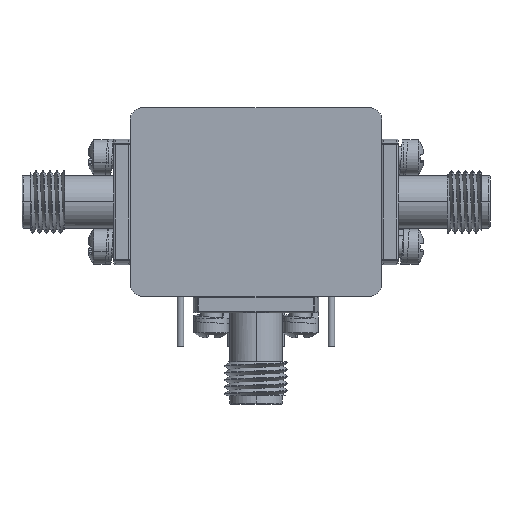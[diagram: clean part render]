
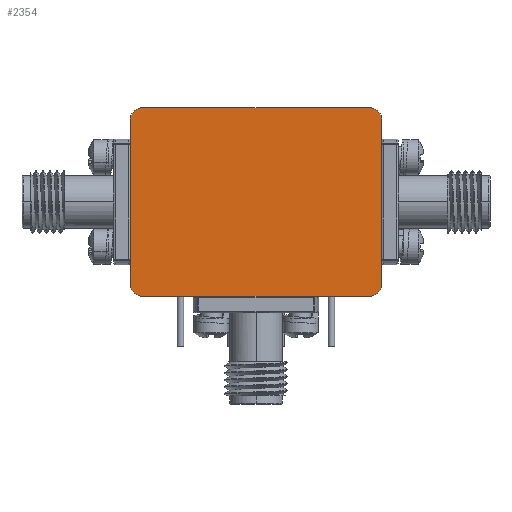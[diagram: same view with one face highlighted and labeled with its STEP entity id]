
A CAD part, front view. The second image highlights one B-rep face of the part: STEP entity #2354.
In plain terms, the highlighted planar face has unit normal (0, -1, 0).
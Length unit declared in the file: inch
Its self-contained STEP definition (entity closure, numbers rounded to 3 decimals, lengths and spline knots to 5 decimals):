
#3 = ORIENTED_EDGE ( 'NONE', *, *, #4755, .T. ) ;
#55 = CARTESIAN_POINT ( 'NONE',  ( 0.05, 0., -0.7 ) ) ;
#102 = CARTESIAN_POINT ( 'NONE',  ( 0.05, 0., -0.05 ) ) ;
#330 = CARTESIAN_POINT ( 'NONE',  ( 1., 0., -0.75 ) ) ;
#332 = CARTESIAN_POINT ( 'NONE',  ( 1., 0., 0. ) ) ;
#513 = EDGE_CURVE ( 'NONE', #1694, #1982, #2130, .T. ) ;
#603 = FACE_OUTER_BOUND ( 'NONE', #4120, .T. ) ;
#648 = DIRECTION ( 'NONE',  ( 0., 0., -1. ) ) ;
#687 = ORIENTED_EDGE ( 'NONE', *, *, #2989, .T. ) ;
#694 = DIRECTION ( 'NONE',  ( 0., 0., -1. ) ) ;
#731 = CARTESIAN_POINT ( 'NONE',  ( 0.95, 0., -0.75 ) ) ;
#732 = CARTESIAN_POINT ( 'NONE',  ( 0.95, 0., -0.7 ) ) ;
#803 = ORIENTED_EDGE ( 'NONE', *, *, #6562, .T. ) ;
#899 = AXIS2_PLACEMENT_3D ( 'NONE', #732, #4727, #1301 ) ;
#901 = VERTEX_POINT ( 'NONE', #4878 ) ;
#961 = CARTESIAN_POINT ( 'NONE',  ( 0.05, 0., -0.75 ) ) ;
#1023 = CARTESIAN_POINT ( 'NONE',  ( 0., 0., -0.75 ) ) ;
#1039 = CARTESIAN_POINT ( 'NONE',  ( 0., 0., 0. ) ) ;
#1183 = CARTESIAN_POINT ( 'NONE',  ( 0.95, 0., 0. ) ) ;
#1211 = EDGE_CURVE ( 'NONE', #7030, #2298, #2940, .T. ) ;
#1301 = DIRECTION ( 'NONE',  ( 0., 0., -1. ) ) ;
#1488 = DIRECTION ( 'NONE',  ( 0., 0., 1. ) ) ;
#1694 = VERTEX_POINT ( 'NONE', #5642 ) ;
#1695 = VECTOR ( 'NONE', #4985, 39.37008 ) ;
#1706 = CARTESIAN_POINT ( 'NONE',  ( 1., 0., -0.05 ) ) ;
#1760 = VERTEX_POINT ( 'NONE', #3946 ) ;
#1982 = VERTEX_POINT ( 'NONE', #1706 ) ;
#2130 = LINE ( 'NONE', #330, #4651 ) ;
#2167 = PLANE ( 'NONE',  #3252 ) ;
#2183 = EDGE_CURVE ( 'NONE', #3669, #901, #5850, .T. ) ;
#2194 = DIRECTION ( 'NONE',  ( 0., -1., 0. ) ) ;
#2298 = VERTEX_POINT ( 'NONE', #961 ) ;
#2354 = ADVANCED_FACE ( 'NONE', ( #603 ), #2167, .T. ) ;
#2416 = DIRECTION ( 'NONE',  ( 0., -1., 0. ) ) ;
#2465 = ORIENTED_EDGE ( 'NONE', *, *, #6415, .T. ) ;
#2525 = VERTEX_POINT ( 'NONE', #731 ) ;
#2940 = CIRCLE ( 'NONE', #6249, 0.05 ) ;
#2989 = EDGE_CURVE ( 'NONE', #2525, #1694, #6623, .T. ) ;
#3010 = VECTOR ( 'NONE', #3190, 39.37008 ) ;
#3190 = DIRECTION ( 'NONE',  ( -1., 0., 0. ) ) ;
#3210 = LINE ( 'NONE', #7234, #1695 ) ;
#3252 = AXIS2_PLACEMENT_3D ( 'NONE', #1039, #2194, #6171 ) ;
#3363 = CARTESIAN_POINT ( 'NONE',  ( 0., 0., -0.7 ) ) ;
#3669 = VERTEX_POINT ( 'NONE', #1183 ) ;
#3946 = CARTESIAN_POINT ( 'NONE',  ( 0., 0., -0.05 ) ) ;
#4058 = DIRECTION ( 'NONE',  ( 0., -1., 0. ) ) ;
#4110 = ORIENTED_EDGE ( 'NONE', *, *, #1211, .T. ) ;
#4111 = DIRECTION ( 'NONE',  ( 0., -1., 0. ) ) ;
#4120 = EDGE_LOOP ( 'NONE', ( #2465, #4110, #803, #687, #7299, #3, #4612, #6311 ) ) ;
#4403 = AXIS2_PLACEMENT_3D ( 'NONE', #102, #4111, #694 ) ;
#4612 = ORIENTED_EDGE ( 'NONE', *, *, #2183, .T. ) ;
#4651 = VECTOR ( 'NONE', #1488, 39.37008 ) ;
#4727 = DIRECTION ( 'NONE',  ( 0., -1., 0. ) ) ;
#4737 = CIRCLE ( 'NONE', #6389, 0.05 ) ;
#4755 = EDGE_CURVE ( 'NONE', #1982, #3669, #4737, .T. ) ;
#4878 = CARTESIAN_POINT ( 'NONE',  ( 0.05, 0., 0. ) ) ;
#4985 = DIRECTION ( 'NONE',  ( 0., 0., -1. ) ) ;
#5346 = VECTOR ( 'NONE', #6217, 39.37008 ) ;
#5642 = CARTESIAN_POINT ( 'NONE',  ( 1., 0., -0.7 ) ) ;
#5819 = CARTESIAN_POINT ( 'NONE',  ( 0.95, 0., -0.05 ) ) ;
#5850 = LINE ( 'NONE', #332, #3010 ) ;
#5960 = CIRCLE ( 'NONE', #4403, 0.05 ) ;
#6134 = EDGE_CURVE ( 'NONE', #901, #1760, #5960, .T. ) ;
#6171 = DIRECTION ( 'NONE',  ( 0., 0., -1. ) ) ;
#6217 = DIRECTION ( 'NONE',  ( 1., 0., 0. ) ) ;
#6249 = AXIS2_PLACEMENT_3D ( 'NONE', #55, #4058, #648 ) ;
#6311 = ORIENTED_EDGE ( 'NONE', *, *, #6134, .T. ) ;
#6387 = DIRECTION ( 'NONE',  ( 0., 0., -1. ) ) ;
#6389 = AXIS2_PLACEMENT_3D ( 'NONE', #5819, #2416, #6387 ) ;
#6415 = EDGE_CURVE ( 'NONE', #1760, #7030, #3210, .T. ) ;
#6562 = EDGE_CURVE ( 'NONE', #2298, #2525, #6836, .T. ) ;
#6623 = CIRCLE ( 'NONE', #899, 0.05 ) ;
#6836 = LINE ( 'NONE', #1023, #5346 ) ;
#7030 = VERTEX_POINT ( 'NONE', #3363 ) ;
#7234 = CARTESIAN_POINT ( 'NONE',  ( 0., 0., 0. ) ) ;
#7299 = ORIENTED_EDGE ( 'NONE', *, *, #513, .T. ) ;
